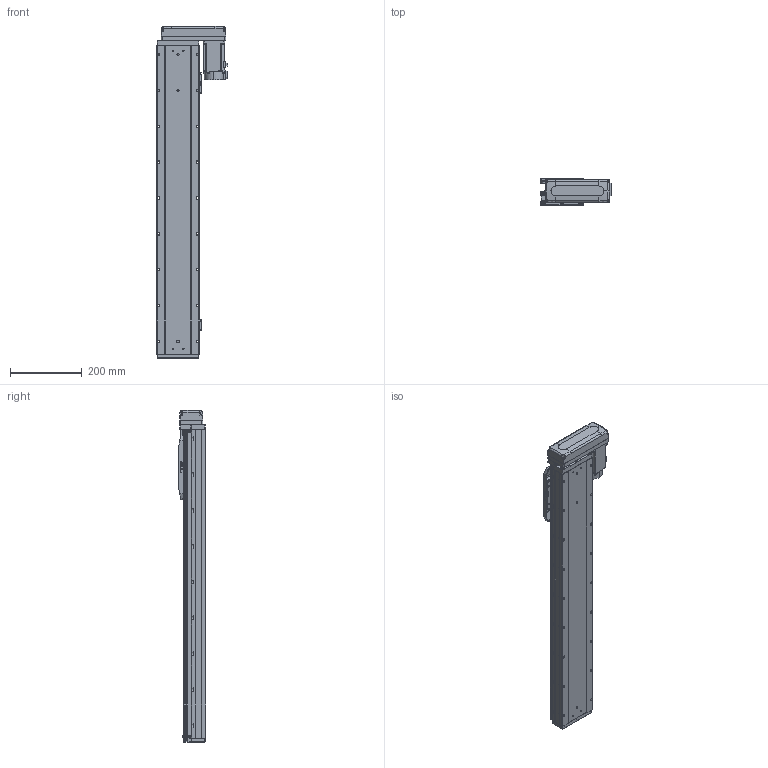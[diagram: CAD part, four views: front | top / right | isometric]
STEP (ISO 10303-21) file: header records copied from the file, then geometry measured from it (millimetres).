
FILE_DESCRIPTION (( 'STEP AP203' ), '1' );
FILE_NAME ('GTH12-650-BL-M40-C4.step', '2023-07-04T10:41:18', ( '微软用户' ), ( '微软中国' ), 'SwSTEP 2.0', 'SolidWorks 2020', '' );
FILE_SCHEMA (( 'CONFIG_CONTROL_DESIGN' ));
Length unit declared in the file: millimetre
Products named in the file (18): GTH50-023; GTH12-650-BL-M40-C4; GTH120-013; GTH50-024; GBT 70.1-M3℅6; GBT96.1-2002 3×0.8; GBT 70.1-M5×16; BTH-M3X5X6; GTH120-001_650; GBT 70.3-M3℅8; hg-kn43j_-s100_; GTH120-003; GTH80-022; GTH120-004; CTHA86-033_M40B; GTH120-006; GTH80-028; GTH120-027-1_GTH120-027-2
Assembly tree (59 placements, depth 2):
  GTH12-650-BL-M40-C4
    GTH120-001_650
    GTH120-003
    GTH120-006
    GTH120-004
    GTH120-013
    GBT 70.1-M3℅6  x14
    GBT 70.1-M5×16  x10
    GBT 70.3-M3℅8  x4
    GTH80-022
    GTH80-028  x2
    GTH50-023  x3
    GTH50-024  x3
    GBT96.1-2002 3×0.8  x6
    BTH-M3X5X6  x8
    hg-kn43j_-s100_
    CTHA86-033_M40B
    GTH120-027-1_GTH120-027-2
Bounding box: 199.8 x 76 x 925.5 mm (x, y, z)
Volume: 6887553.4 mm3; surface area: 637627.6 mm2
Topology: 61 solids, 61 shells, 2451 faces, 5716 edges, 3507 vertices
Faces by surface type: plane 1262, cylinder 709, cone 292, torus 174, sphere 8, bspline 6
Entity records: 45814 total; most frequent: CARTESIAN_POINT 7760, DIRECTION 7584, ORIENTED_EDGE 7042, EDGE_CURVE 3521, AXIS2_PLACEMENT_3D 2652, LINE 2280, VECTOR 2280, VERTEX_POINT 2228
